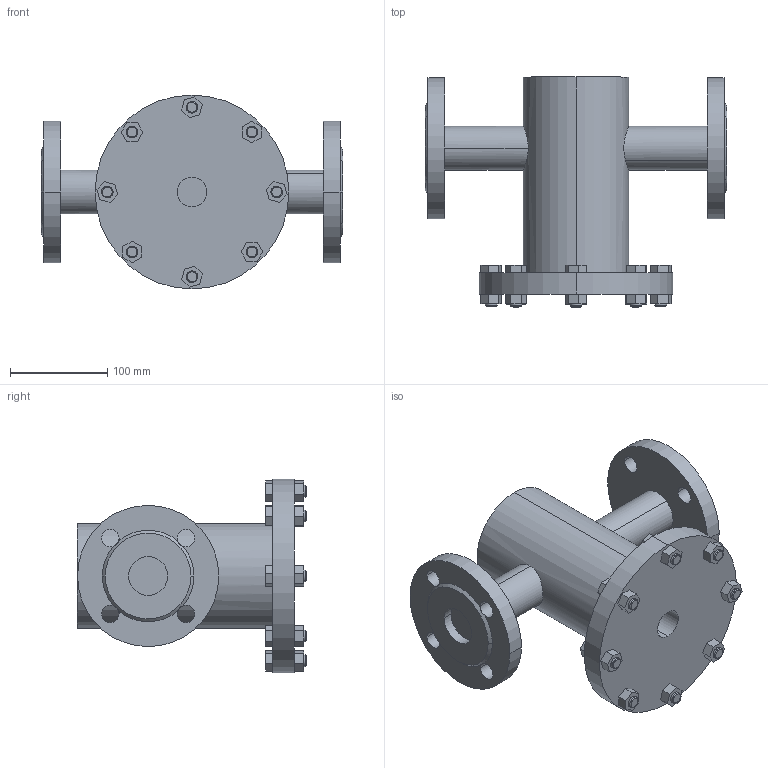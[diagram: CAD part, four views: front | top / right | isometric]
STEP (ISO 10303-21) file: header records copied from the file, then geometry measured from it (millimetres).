
FILE_DESCRIPTION (( 'STEP AP214' ), '1' );
FILE_NAME ('DN040 PN16.STEP', '2025-08-08T11:55:23', ( '' ), ( '' ), 'SwSTEP 2.0', 'SolidWorks 2023', '' );
FILE_SCHEMA (( 'AUTOMOTIVE_DESIGN' ));
Length unit declared in the file: millimetre
Products named in the file (1): DN040 PN16
Bounding box: 310 x 236 x 199 mm (x, y, z)
Volume: 3316460.8 mm3; surface area: 263889.6 mm2
Topology: 1 solids, 1 shells, 208 faces, 518 edges, 340 vertices
Faces by surface type: plane 134, cylinder 54, cone 20
Entity records: 6597 total; most frequent: CARTESIAN_POINT 1433, DIRECTION 1068, ORIENTED_EDGE 1036, EDGE_CURVE 518, LINE 362, VECTOR 362, AXIS2_PLACEMENT_3D 353, VERTEX_POINT 340
